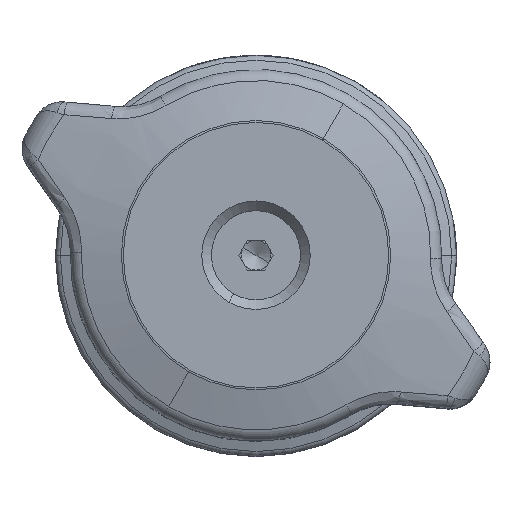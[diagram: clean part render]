
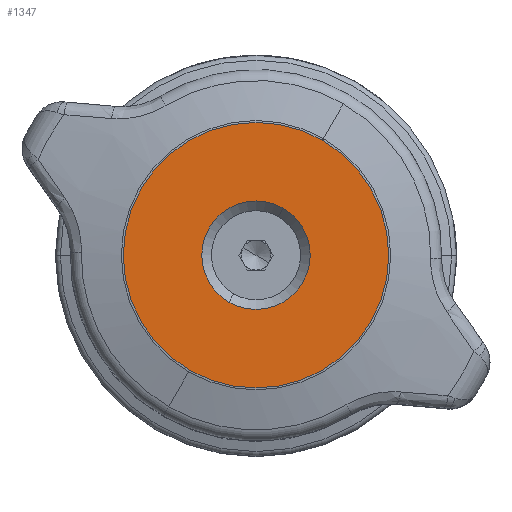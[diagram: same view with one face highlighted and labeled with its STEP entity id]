
A CAD part, top view. The second image highlights one B-rep face of the part: STEP entity #1347.
In plain terms, the highlighted planar face has unit normal (0, 0, 1) as drawn and (0, 0, -1) by its records, which use the part's own axes.
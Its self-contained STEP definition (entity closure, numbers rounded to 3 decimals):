
#97 = EDGE_CURVE ( 'NONE', #11435, #7613, #8725, .T. ) ;
#158 = AXIS2_PLACEMENT_3D ( 'NONE', #8039, #9882, #6202 ) ;
#230 = DIRECTION ( 'NONE',  ( -0.866, -0.5, 0. ) ) ;
#1046 = DIRECTION ( 'NONE',  ( 0., 0., 1. ) ) ;
#1143 = FACE_OUTER_BOUND ( 'NONE', #1772, .T. ) ;
#1174 = CIRCLE ( 'NONE', #12172, 8.934 ) ;
#1347 = ADVANCED_FACE ( 'NONE', ( #1143, #7785 ), #11543, .F. ) ;
#1729 = CARTESIAN_POINT ( 'NONE',  ( 3.161, 1.825, -35.425 ) ) ;
#1772 = EDGE_LOOP ( 'NONE', ( #4792, #8740 ) ) ;
#2089 = DIRECTION ( 'NONE',  ( -0.866, -0.5, 0. ) ) ;
#2476 = EDGE_LOOP ( 'NONE', ( #10543, #4147 ) ) ;
#3090 = CARTESIAN_POINT ( 'NONE',  ( 0., 0., -35.425 ) ) ;
#3902 = VERTEX_POINT ( 'NONE', #1729 ) ;
#4147 = ORIENTED_EDGE ( 'NONE', *, *, #9385, .T. ) ;
#4526 = CIRCLE ( 'NONE', #9034, 3.65 ) ;
#4792 = ORIENTED_EDGE ( 'NONE', *, *, #97, .T. ) ;
#4840 = CARTESIAN_POINT ( 'NONE',  ( 0., 0., -35.425 ) ) ;
#5087 = DIRECTION ( 'NONE',  ( 0., 0., 1. ) ) ;
#5505 = CIRCLE ( 'NONE', #158, 3.65 ) ;
#5531 = DIRECTION ( 'NONE',  ( -0.866, -0.5, 0. ) ) ;
#5611 = AXIS2_PLACEMENT_3D ( 'NONE', #7907, #5087, #8891 ) ;
#6022 = DIRECTION ( 'NONE',  ( 0., 0., -1. ) ) ;
#6202 = DIRECTION ( 'NONE',  ( -0.866, -0.5, 0. ) ) ;
#6968 = CARTESIAN_POINT ( 'NONE',  ( 7.737, 4.467, -35.425 ) ) ;
#7158 = AXIS2_PLACEMENT_3D ( 'NONE', #4840, #9272, #5531 ) ;
#7613 = VERTEX_POINT ( 'NONE', #6968 ) ;
#7672 = CARTESIAN_POINT ( 'NONE',  ( 0., 0., -35.425 ) ) ;
#7680 = EDGE_CURVE ( 'NONE', #3902, #10430, #4526, .T. ) ;
#7704 = CARTESIAN_POINT ( 'NONE',  ( -3.161, -1.825, -35.425 ) ) ;
#7785 = FACE_BOUND ( 'NONE', #2476, .T. ) ;
#7907 = CARTESIAN_POINT ( 'NONE',  ( 0., 0., -35.425 ) ) ;
#8039 = CARTESIAN_POINT ( 'NONE',  ( 0., 0., -35.425 ) ) ;
#8725 = CIRCLE ( 'NONE', #7158, 8.934 ) ;
#8740 = ORIENTED_EDGE ( 'NONE', *, *, #9820, .T. ) ;
#8891 = DIRECTION ( 'NONE',  ( -0.866, -0.5, 0. ) ) ;
#9034 = AXIS2_PLACEMENT_3D ( 'NONE', #3090, #1046, #230 ) ;
#9251 = CARTESIAN_POINT ( 'NONE',  ( -7.737, -4.467, -35.425 ) ) ;
#9272 = DIRECTION ( 'NONE',  ( 0., 0., -1. ) ) ;
#9385 = EDGE_CURVE ( 'NONE', #10430, #3902, #5505, .T. ) ;
#9820 = EDGE_CURVE ( 'NONE', #7613, #11435, #1174, .T. ) ;
#9882 = DIRECTION ( 'NONE',  ( 0., 0., 1. ) ) ;
#10430 = VERTEX_POINT ( 'NONE', #7704 ) ;
#10543 = ORIENTED_EDGE ( 'NONE', *, *, #7680, .T. ) ;
#11435 = VERTEX_POINT ( 'NONE', #9251 ) ;
#11543 = PLANE ( 'NONE',  #5611 ) ;
#12172 = AXIS2_PLACEMENT_3D ( 'NONE', #7672, #6022, #2089 ) ;
